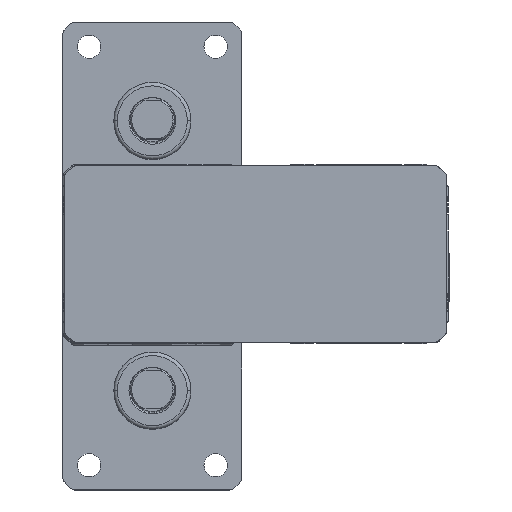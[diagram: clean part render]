
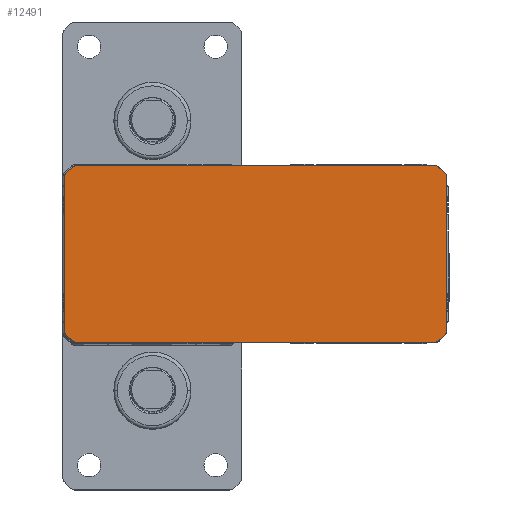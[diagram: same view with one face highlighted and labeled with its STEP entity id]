
A CAD part, top view. The second image highlights one B-rep face of the part: STEP entity #12491.
In plain terms, the highlighted planar face has unit normal (0, 0, 1).
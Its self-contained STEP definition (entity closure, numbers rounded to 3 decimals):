
#641 = AXIS2_PLACEMENT_3D ( 'NONE', #22445, #50591, #26502 ) ;
#1056 = VECTOR ( 'NONE', #10354, 1000. ) ;
#2250 = CARTESIAN_POINT ( 'NONE',  ( 106.561, 29.061, 394. ) ) ;
#2673 = VERTEX_POINT ( 'NONE', #32746 ) ;
#3091 = CIRCLE ( 'NONE', #15770, 1.5 ) ;
#3201 = VECTOR ( 'NONE', #41676, 1000. ) ;
#3464 = DIRECTION ( 'NONE',  ( 0., 0., 1. ) ) ;
#3830 = DIRECTION ( 'NONE',  ( 0.707, -0.707, 0. ) ) ;
#3931 = ORIENTED_EDGE ( 'NONE', *, *, #25409, .T. ) ;
#5383 = AXIS2_PLACEMENT_3D ( 'NONE', #22152, #50298, #26234 ) ;
#5854 = ORIENTED_EDGE ( 'NONE', *, *, #32356, .T. ) ;
#6275 = CARTESIAN_POINT ( 'NONE',  ( 103., 32., 394. ) ) ;
#6451 = ORIENTED_EDGE ( 'NONE', *, *, #12629, .T. ) ;
#7095 = ORIENTED_EDGE ( 'NONE', *, *, #15144, .T. ) ;
#7362 = CARTESIAN_POINT ( 'NONE',  ( -32., -28., 394. ) ) ;
#7445 = EDGE_CURVE ( 'NONE', #18014, #50465, #28595, .T. ) ;
#7728 = CARTESIAN_POINT ( 'NONE',  ( -31.561, 29.061, 394. ) ) ;
#8241 = ORIENTED_EDGE ( 'NONE', *, *, #44780, .T. ) ;
#8402 = AXIS2_PLACEMENT_3D ( 'NONE', #14969, #43076, #19044 ) ;
#9146 = EDGE_CURVE ( 'NONE', #46970, #28711, #52319, .T. ) ;
#9854 = AXIS2_PLACEMENT_3D ( 'NONE', #20894, #49007, #24945 ) ;
#10354 = DIRECTION ( 'NONE',  ( -1., 0., 0. ) ) ;
#10468 = CARTESIAN_POINT ( 'NONE',  ( 105.5, 28., 394. ) ) ;
#10524 = VERTEX_POINT ( 'NONE', #2250 ) ;
#10928 = PLANE ( 'NONE',  #48898 ) ;
#11614 = AXIS2_PLACEMENT_3D ( 'NONE', #10468, #38649, #14599 ) ;
#12034 = ORIENTED_EDGE ( 'NONE', *, *, #28198, .T. ) ;
#12215 = CIRCLE ( 'NONE', #5383, 1.5 ) ;
#12491 = ADVANCED_FACE ( 'NONE', ( #21320 ), #10928, .T. ) ;
#12629 = EDGE_CURVE ( 'NONE', #24261, #33317, #48345, .T. ) ;
#13810 = CARTESIAN_POINT ( 'NONE',  ( -32., 28., 394. ) ) ;
#13908 = CARTESIAN_POINT ( 'NONE',  ( 103., -32., 394. ) ) ;
#13919 = EDGE_CURVE ( 'NONE', #35389, #47383, #45641, .T. ) ;
#13984 = CARTESIAN_POINT ( 'NONE',  ( 104.061, -31.561, 394. ) ) ;
#14434 = ORIENTED_EDGE ( 'NONE', *, *, #44784, .T. ) ;
#14599 = DIRECTION ( 'NONE',  ( 1., 0., 0. ) ) ;
#14969 = CARTESIAN_POINT ( 'NONE',  ( 103., -30.5, 394. ) ) ;
#15060 = DIRECTION ( 'NONE',  ( 0., 0., 1. ) ) ;
#15144 = EDGE_CURVE ( 'NONE', #33317, #46970, #12215, .T. ) ;
#15578 = CARTESIAN_POINT ( 'NONE',  ( 104.061, 31.561, 394. ) ) ;
#15770 = AXIS2_PLACEMENT_3D ( 'NONE', #42432, #18402, #46497 ) ;
#16220 = EDGE_CURVE ( 'NONE', #18467, #18014, #35417, .T. ) ;
#16507 = ORIENTED_EDGE ( 'NONE', *, *, #16220, .T. ) ;
#17431 = CARTESIAN_POINT ( 'NONE',  ( 107., 28., 394. ) ) ;
#18014 = VERTEX_POINT ( 'NONE', #38778 ) ;
#18326 = CARTESIAN_POINT ( 'NONE',  ( 107., -28., 394. ) ) ;
#18402 = DIRECTION ( 'NONE',  ( 0., 0., 1. ) ) ;
#18467 = VERTEX_POINT ( 'NONE', #13984 ) ;
#18960 = CIRCLE ( 'NONE', #641, 1.5 ) ;
#19044 = DIRECTION ( 'NONE',  ( 1., 0., 0. ) ) ;
#19154 = ORIENTED_EDGE ( 'NONE', *, *, #13919, .T. ) ;
#19340 = VECTOR ( 'NONE', #36817, 1000. ) ;
#19927 = CIRCLE ( 'NONE', #47703, 1.5 ) ;
#20202 = VECTOR ( 'NONE', #34074, 1000. ) ;
#20894 = CARTESIAN_POINT ( 'NONE',  ( -30.5, 28., 394. ) ) ;
#21320 = FACE_OUTER_BOUND ( 'NONE', #31103, .T. ) ;
#21771 = CARTESIAN_POINT ( 'NONE',  ( -28., 32., 394. ) ) ;
#22146 = CARTESIAN_POINT ( 'NONE',  ( 103., 32., 394. ) ) ;
#22152 = CARTESIAN_POINT ( 'NONE',  ( -28., -30.5, 394. ) ) ;
#22445 = CARTESIAN_POINT ( 'NONE',  ( -28., 30.5, 394. ) ) ;
#22847 = CIRCLE ( 'NONE', #11614, 1.5 ) ;
#23815 = VERTEX_POINT ( 'NONE', #7728 ) ;
#24017 = EDGE_CURVE ( 'NONE', #2673, #23815, #42485, .T. ) ;
#24261 = VERTEX_POINT ( 'NONE', #42581 ) ;
#24815 = CARTESIAN_POINT ( 'NONE',  ( -28., -32., 394. ) ) ;
#24945 = DIRECTION ( 'NONE',  ( 1., 0., 0. ) ) ;
#25409 = EDGE_CURVE ( 'NONE', #41121, #10524, #22847, .T. ) ;
#25581 = CARTESIAN_POINT ( 'NONE',  ( 104.061, -31.561, 394. ) ) ;
#26234 = DIRECTION ( 'NONE',  ( 1., 0., 0. ) ) ;
#26432 = EDGE_CURVE ( 'NONE', #47383, #24261, #3091, .T. ) ;
#26502 = DIRECTION ( 'NONE',  ( 1., 0., 0. ) ) ;
#27557 = VERTEX_POINT ( 'NONE', #22146 ) ;
#27716 = CARTESIAN_POINT ( 'NONE',  ( 103., 30.5, 394. ) ) ;
#28095 = CARTESIAN_POINT ( 'NONE',  ( -31.561, -29.061, 394. ) ) ;
#28159 = LINE ( 'NONE', #18326, #49551 ) ;
#28198 = EDGE_CURVE ( 'NONE', #27557, #49026, #33335, .T. ) ;
#28595 = CIRCLE ( 'NONE', #46411, 1.5 ) ;
#28711 = VERTEX_POINT ( 'NONE', #13908 ) ;
#30066 = CIRCLE ( 'NONE', #9854, 1.5 ) ;
#30589 = CARTESIAN_POINT ( 'NONE',  ( -32., 28., 394. ) ) ;
#31103 = EDGE_LOOP ( 'NONE', ( #42040, #6451, #7095, #35356, #50070, #16507, #34613, #31400, #3931, #8241, #50475, #12034, #5854, #34156, #14434, #19154 ) ) ;
#31400 = ORIENTED_EDGE ( 'NONE', *, *, #52216, .T. ) ;
#31783 = DIRECTION ( 'NONE',  ( 1., 0., 0. ) ) ;
#32356 = EDGE_CURVE ( 'NONE', #49026, #2673, #18960, .T. ) ;
#32730 = CARTESIAN_POINT ( 'NONE',  ( -29.061, -31.561, 394. ) ) ;
#32746 = CARTESIAN_POINT ( 'NONE',  ( -29.061, 31.561, 394. ) ) ;
#32847 = CARTESIAN_POINT ( 'NONE',  ( 106.561, 29.061, 394. ) ) ;
#33317 = VERTEX_POINT ( 'NONE', #32730 ) ;
#33335 = LINE ( 'NONE', #6275, #1056 ) ;
#33737 = VECTOR ( 'NONE', #50087, 1000. ) ;
#34074 = DIRECTION ( 'NONE',  ( 1., 0., 0. ) ) ;
#34156 = ORIENTED_EDGE ( 'NONE', *, *, #24017, .T. ) ;
#34613 = ORIENTED_EDGE ( 'NONE', *, *, #7445, .T. ) ;
#34803 = CARTESIAN_POINT ( 'NONE',  ( -28., -32., 394. ) ) ;
#35100 = CARTESIAN_POINT ( 'NONE',  ( -30.5, -28., 394. ) ) ;
#35352 = DIRECTION ( 'NONE',  ( 1., 0., 0. ) ) ;
#35356 = ORIENTED_EDGE ( 'NONE', *, *, #9146, .T. ) ;
#35389 = VERTEX_POINT ( 'NONE', #30589 ) ;
#35417 = LINE ( 'NONE', #25581, #3201 ) ;
#35528 = DIRECTION ( 'NONE',  ( 0., 0., 1. ) ) ;
#36332 = VECTOR ( 'NONE', #3830, 1000. ) ;
#36444 = EDGE_CURVE ( 'NONE', #40617, #27557, #19927, .T. ) ;
#36817 = DIRECTION ( 'NONE',  ( -0.707, 0.707, 0. ) ) ;
#37468 = CARTESIAN_POINT ( 'NONE',  ( 105.5, -28., 394. ) ) ;
#38649 = DIRECTION ( 'NONE',  ( 0., 0., 1. ) ) ;
#38778 = CARTESIAN_POINT ( 'NONE',  ( 106.561, -29.061, 394. ) ) ;
#39467 = CARTESIAN_POINT ( 'NONE',  ( 107., -28., 394. ) ) ;
#39959 = VECTOR ( 'NONE', #45076, 1000. ) ;
#40617 = VERTEX_POINT ( 'NONE', #15578 ) ;
#41121 = VERTEX_POINT ( 'NONE', #17431 ) ;
#41676 = DIRECTION ( 'NONE',  ( 0.707, 0.707, 0. ) ) ;
#42040 = ORIENTED_EDGE ( 'NONE', *, *, #26432, .T. ) ;
#42432 = CARTESIAN_POINT ( 'NONE',  ( -30.5, -28., 394. ) ) ;
#42485 = LINE ( 'NONE', #49170, #39959 ) ;
#42581 = CARTESIAN_POINT ( 'NONE',  ( -31.561, -29.061, 394. ) ) ;
#43076 = DIRECTION ( 'NONE',  ( 0., 0., 1. ) ) ;
#43173 = DIRECTION ( 'NONE',  ( 1., 0., 0. ) ) ;
#44035 = CIRCLE ( 'NONE', #8402, 1.5 ) ;
#44780 = EDGE_CURVE ( 'NONE', #10524, #40617, #51444, .T. ) ;
#44784 = EDGE_CURVE ( 'NONE', #23815, #35389, #30066, .T. ) ;
#45076 = DIRECTION ( 'NONE',  ( -0.707, -0.707, 0. ) ) ;
#45641 = LINE ( 'NONE', #13810, #33737 ) ;
#46411 = AXIS2_PLACEMENT_3D ( 'NONE', #37468, #35528, #35352 ) ;
#46420 = DIRECTION ( 'NONE',  ( 0., 1., 0. ) ) ;
#46497 = DIRECTION ( 'NONE',  ( 1., 0., 0. ) ) ;
#46970 = VERTEX_POINT ( 'NONE', #24815 ) ;
#47383 = VERTEX_POINT ( 'NONE', #7362 ) ;
#47703 = AXIS2_PLACEMENT_3D ( 'NONE', #27716, #3464, #31783 ) ;
#48345 = LINE ( 'NONE', #28095, #36332 ) ;
#48898 = AXIS2_PLACEMENT_3D ( 'NONE', #35100, #15060, #43173 ) ;
#49007 = DIRECTION ( 'NONE',  ( 0., 0., 1. ) ) ;
#49026 = VERTEX_POINT ( 'NONE', #21771 ) ;
#49170 = CARTESIAN_POINT ( 'NONE',  ( -29.061, 31.561, 394. ) ) ;
#49551 = VECTOR ( 'NONE', #46420, 1000. ) ;
#49763 = EDGE_CURVE ( 'NONE', #28711, #18467, #44035, .T. ) ;
#50070 = ORIENTED_EDGE ( 'NONE', *, *, #49763, .T. ) ;
#50087 = DIRECTION ( 'NONE',  ( 0., -1., 0. ) ) ;
#50298 = DIRECTION ( 'NONE',  ( 0., 0., 1. ) ) ;
#50465 = VERTEX_POINT ( 'NONE', #39467 ) ;
#50475 = ORIENTED_EDGE ( 'NONE', *, *, #36444, .T. ) ;
#50591 = DIRECTION ( 'NONE',  ( 0., 0., 1. ) ) ;
#51444 = LINE ( 'NONE', #32847, #19340 ) ;
#52216 = EDGE_CURVE ( 'NONE', #50465, #41121, #28159, .T. ) ;
#52319 = LINE ( 'NONE', #34803, #20202 ) ;
